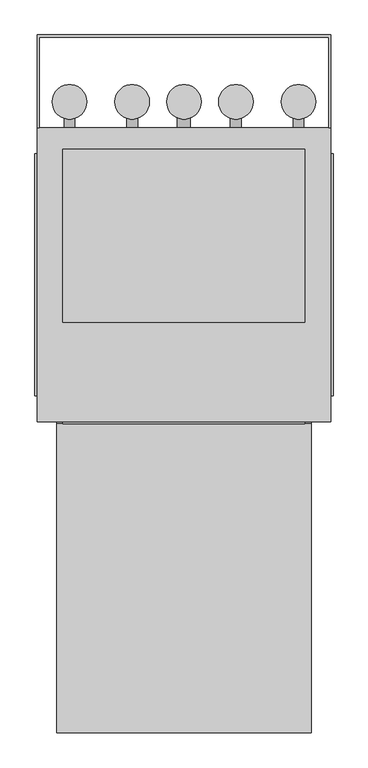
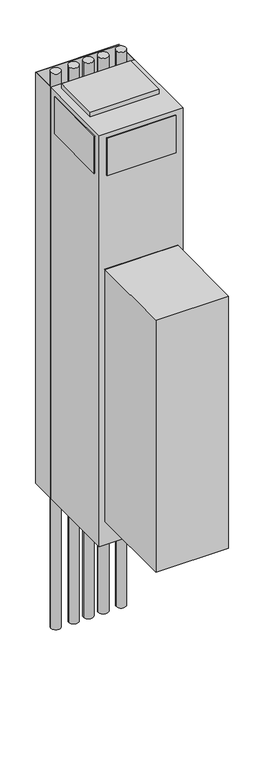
"""IFC4 building model written with IfcOpenShell, lengths in millimetres: proxy geometry, Exposed_Modular_Fan_Coil_Unit_-_MXY_-_IEC_-_4-Pipe_-_WithRisers_2022 : Size 03 - 277v/60Hz/1Ph - 4/1 Coil."""

from ifc_helpers import new_model, si_unit, point, frame, frame_2d, origin, origin_with_axes, place, context, project, spatial, polyline, circle_curve, trimmed, segment, composite_curve, outline, extrude, source, transform, mapped, element, save


def mechanical_equipment_d3b51a09(model_context):
    return source(origin(), model_context, "Body", "SweptSolid", [
        extrude(outline(polyline([(1356.1480703, 439.8118862), (1346.2, 471.9852728), (1488.3709244, 471.9852728), (1465.3489183, 439.8118862), (1356.1480703, 439.8118862)])), frame((0.0, -193.675, 0.0), z_axis=(0.0, 1.0, 0.0), x_axis=(0.0, 0.0, 1.0)), (0.0, 0.0, 1.0), 3.175),
        extrude(outline(polyline([(1435.1473557, 478.7436058), (1431.9449632, 504.825), (1461.1738042, 504.825), (1469.2382193, 478.7436058), (1435.1473557, 478.7436058)])), frame((0.0, -193.675, 0.0), z_axis=(0.0, 1.0, 0.0), x_axis=(0.0, 0.0, 1.0)), (0.0, 0.0, 1.0), 3.175),
        extrude(outline(polyline([(1383.2838288, 504.825), (1379.6183279, 478.7436058), (1346.2, 478.7436058), (1354.8342372, 504.825), (1383.2838288, 504.825)])), frame((0.0, -193.675, 0.0), z_axis=(0.0, 1.0, 0.0), x_axis=(0.0, 0.0, 1.0)), (0.0, 0.0, 1.0), 3.175),
        extrude(outline(polyline([(1422.5989903, 504.825), (1424.8808166, 478.7436058), (1388.9432681, 478.7436058), (1391.6845331, 504.825), (1422.5989903, 504.825)])), frame((0.0, -193.675, 0.0), z_axis=(0.0, 1.0, 0.0), x_axis=(0.0, 0.0, 1.0)), (0.0, 0.0, 1.0), 3.175),
        extrude(outline(composite_curve([segment(trimmed(circle_curve(frame_2d((200.025, 282.575)), 25.4), [point((225.425, 282.575))], [point((174.625, 282.575))], False, "CARTESIAN"), True, "CONTINUOUS"), segment(trimmed(circle_curve(frame_2d((200.025, 282.575)), 25.4), [point((174.625, 282.575))], [point((225.425, 282.575))], False, "CARTESIAN"), True, "CONTINUOUS")], self_intersect=False)), frame((0.0, 0.0, -736.6), z_axis=(0.0, 0.0, 1.0), x_axis=(1.0, 0.0, 0.0)), (0.0, 0.0, 1.0), 3022.6),
        extrude(outline(composite_curve([segment(trimmed(circle_curve(frame_2d((292.1, 282.575)), 25.4), [point((317.5, 282.575))], [point((266.7, 282.575))], False, "CARTESIAN"), True, "CONTINUOUS"), segment(trimmed(circle_curve(frame_2d((292.1, 282.575)), 25.4), [point((266.7, 282.575))], [point((317.5, 282.575))], False, "CARTESIAN"), True, "CONTINUOUS")], self_intersect=False)), frame((0.0, 0.0, -736.6), z_axis=(0.0, 0.0, 1.0), x_axis=(1.0, 0.0, 0.0)), (0.0, 0.0, 1.0), 3022.6),
        extrude(outline(composite_curve([segment(trimmed(circle_curve(frame_2d((368.3, 282.575)), 25.4), [point((393.7, 282.575))], [point((342.9, 282.575))], False, "CARTESIAN"), True, "CONTINUOUS"), segment(trimmed(circle_curve(frame_2d((368.3, 282.575)), 25.4), [point((342.9, 282.575))], [point((393.7, 282.575))], False, "CARTESIAN"), True, "CONTINUOUS")], self_intersect=False)), frame((0.0, 0.0, -736.6), z_axis=(0.0, 0.0, 1.0), x_axis=(1.0, 0.0, 0.0)), (0.0, 0.0, 1.0), 3022.6),
        extrude(outline(composite_curve([segment(trimmed(circle_curve(frame_2d((444.5, 282.575)), 25.4), [point((469.9, 282.575))], [point((419.1, 282.575))], False, "CARTESIAN"), True, "CONTINUOUS"), segment(trimmed(circle_curve(frame_2d((444.5, 282.575)), 25.4), [point((419.1, 282.575))], [point((469.9, 282.575))], False, "CARTESIAN"), True, "CONTINUOUS")], self_intersect=False)), frame((0.0, 0.0, -736.6), z_axis=(0.0, 0.0, 1.0), x_axis=(1.0, 0.0, 0.0)), (0.0, 0.0, 1.0), 3022.6),
        extrude(outline(composite_curve([segment(trimmed(circle_curve(frame_2d((536.575, 282.575)), 25.4), [point((561.975, 282.575))], [point((511.175, 282.575))], False, "CARTESIAN"), True, "CONTINUOUS"), segment(trimmed(circle_curve(frame_2d((536.575, 282.575)), 25.4), [point((511.175, 282.575))], [point((561.975, 282.575))], False, "CARTESIAN"), True, "CONTINUOUS")], self_intersect=False)), frame((0.0, 0.0, -736.6), z_axis=(0.0, 0.0, 1.0), x_axis=(1.0, 0.0, 0.0)), (0.0, 0.0, 1.0), 3022.6),
        extrude(outline(polyline([(555.625, -190.5), (555.625, -644.525), (180.975, -644.525), (180.975, -190.5), (555.625, -190.5)])), frame((0.0, 0.0, 127.0), z_axis=(0.0, 0.0, 1.0), x_axis=(1.0, 0.0, 0.0)), (0.0, 0.0, 1.0), 1371.6),
        extrude(outline(polyline([(152.4, 381.0), (584.2, 381.0), (584.2, 244.475), (581.025, 244.475), (581.025, 377.825), (155.575, 377.825), (155.575, 244.475), (152.4, 244.475), (152.4, 381.0)])), origin_with_axes(), (0.0, 0.0, 1.0), 2235.2),
        extrude(outline(composite_curve([segment(trimmed(circle_curve(frame_2d((990.6, 444.5)), 7.9375), [point((990.6, 452.4375))], [point((990.6, 436.5625))], False, "CARTESIAN"), True, "CONTINUOUS"), segment(trimmed(circle_curve(frame_2d((990.6, 444.5)), 7.9375), [point((990.6, 436.5625))], [point((990.6, 452.4375))], False, "CARTESIAN"), True, "CONTINUOUS")], self_intersect=False)), frame((0.0, 244.475, 0.0), z_axis=(0.0, 1.0, 0.0), x_axis=(0.0, 0.0, 1.0)), (0.0, 0.0, 1.0), 25.4),
        extrude(outline(composite_curve([segment(trimmed(circle_curve(frame_2d((990.6, 292.1)), 7.9375), [point((990.6, 300.0375))], [point((990.6, 284.1625))], False, "CARTESIAN"), True, "CONTINUOUS"), segment(trimmed(circle_curve(frame_2d((990.6, 292.1)), 7.9375), [point((990.6, 284.1625))], [point((990.6, 300.0375))], False, "CARTESIAN"), True, "CONTINUOUS")], self_intersect=False)), frame((0.0, 244.475, 0.0), z_axis=(0.0, 1.0, 0.0), x_axis=(0.0, 0.0, 1.0)), (0.0, 0.0, 1.0), 25.4),
        extrude(outline(composite_curve([segment(trimmed(circle_curve(frame_2d((76.2, 368.3)), 9.525), [point((76.2, 377.825))], [point((76.2, 358.775))], False, "CARTESIAN"), True, "CONTINUOUS"), segment(trimmed(circle_curve(frame_2d((76.2, 368.3)), 9.525), [point((76.2, 358.775))], [point((76.2, 377.825))], False, "CARTESIAN"), True, "CONTINUOUS")], self_intersect=False)), frame((0.0, 244.475, 0.0), z_axis=(0.0, 1.0, 0.0), x_axis=(0.0, 0.0, 1.0)), (0.0, 0.0, 1.0), 25.4),
        extrude(outline(composite_curve([segment(trimmed(circle_curve(frame_2d((990.6, 536.575)), 7.9375), [point((990.6, 544.5125))], [point((990.6, 528.6375))], False, "CARTESIAN"), True, "CONTINUOUS"), segment(trimmed(circle_curve(frame_2d((990.6, 536.575)), 7.9375), [point((990.6, 528.6375))], [point((990.6, 544.5125))], False, "CARTESIAN"), True, "CONTINUOUS")], self_intersect=False)), frame((0.0, 244.475, 0.0), z_axis=(0.0, 1.0, 0.0), x_axis=(0.0, 0.0, 1.0)), (0.0, 0.0, 1.0), 25.4),
        extrude(outline(composite_curve([segment(trimmed(circle_curve(frame_2d((990.6, 200.025)), 7.9375), [point((990.6, 207.9625))], [point((990.6, 192.0875))], False, "CARTESIAN"), True, "CONTINUOUS"), segment(trimmed(circle_curve(frame_2d((990.6, 200.025)), 7.9375), [point((990.6, 192.0875))], [point((990.6, 207.9625))], False, "CARTESIAN"), True, "CONTINUOUS")], self_intersect=False)), frame((0.0, 244.475, 0.0), z_axis=(0.0, 1.0, 0.0), x_axis=(0.0, 0.0, 1.0)), (0.0, 0.0, 1.0), 25.4),
        extrude(outline(polyline([(555.625, -190.5), (180.975, -190.5), (180.975, -187.325), (555.625, -187.325), (555.625, -190.5)])), frame((0.0, 0.0, 127.0), z_axis=(0.0, 0.0, 1.0), x_axis=(1.0, 0.0, 0.0)), (0.0, 0.0, 1.0), 1371.6),
        extrude(outline(polyline([(587.375, 206.375), (587.375, -149.225), (584.2, -149.225), (584.2, 206.375), (587.375, 206.375)])), frame((0.0, 0.0, 2006.6), z_axis=(0.0, 0.0, 1.0), x_axis=(1.0, 0.0, 0.0)), (0.0, 0.0, 1.0), 203.2),
        extrude(outline(polyline([(149.225, -149.225), (149.225, 206.375), (152.4, 206.375), (152.4, -149.225), (149.225, -149.225)])), frame((0.0, 0.0, 2006.6), z_axis=(0.0, 0.0, 1.0), x_axis=(1.0, 0.0, 0.0)), (0.0, 0.0, 1.0), 203.2),
        extrude(outline(polyline([(546.1, -190.5), (190.5, -190.5), (190.5, -187.325), (546.1, -187.325), (546.1, -190.5)])), frame((0.0, 0.0, 2006.6), z_axis=(0.0, 0.0, 1.0), x_axis=(1.0, 0.0, 0.0)), (0.0, 0.0, 1.0), 203.2),
        extrude(outline(polyline([(546.1, 212.725), (546.1, -41.275), (190.5, -41.275), (190.5, 212.725), (546.1, 212.725)])), frame((0.0, 0.0, 2235.2), z_axis=(0.0, 0.0, 1.0), x_axis=(1.0, 0.0, 0.0)), (0.0, 0.0, 1.0), 25.4),
        extrude(outline(polyline([(584.2, 244.475), (584.2, -187.325), (152.4, -187.325), (152.4, 244.475), (584.2, 244.475)])), origin_with_axes(), (0.0, 0.0, 1.0), 2235.2),
    ])


if __name__ == "__main__":
    model = new_model("IFC4")
    model_context = context("Model", 3, world=origin())
    ifc_project = project(units=[si_unit("LENGTHUNIT", "METRE", prefix="MILLI")], contexts=[model_context])
    site = spatial("IfcSite", under=ifc_project)
    building = spatial("IfcBuilding", under=site)
    placement = place(None, origin())
    mechanical_equipment_shape = mechanical_equipment_d3b51a09(model_context)
    element("IfcBuildingElementProxy", 1, Name="Exposed_Modular_Fan_Coil_Unit_-_MXY_-_IEC_-_4-Pipe_-_WithRisers_2022 : Size 03 - 277v/60Hz/1Ph - 4/1 Coil", ObjectType="Exposed_Modular_Fan_Coil_Unit_-_MXY_-_IEC_-_4-Pipe_-_WithRisers_2022 : Size 03 - 277v/60Hz/1Ph - 4/1 Coil", at=placement, inside=building, context=model_context, shape_type="MappedRepresentation", body=[
        mapped(mechanical_equipment_shape, transform((0.0, 0.0, 0.0), x_axis=(1.0, 0.0, 0.0), y_axis=(0.0, 1.0, 0.0), z_axis=(0.0, 0.0, 1.0))),
    ])
    save(model, "model.ifc")
